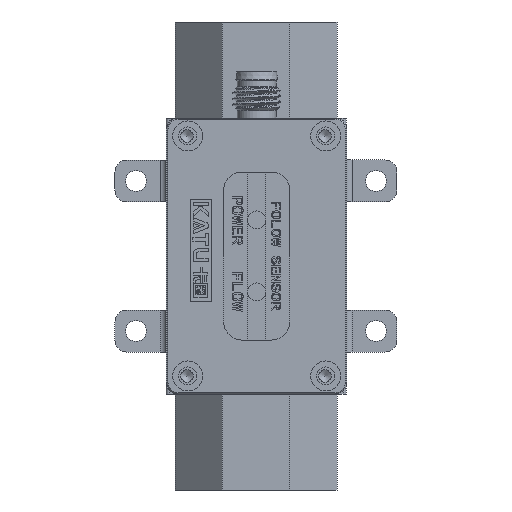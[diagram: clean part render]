
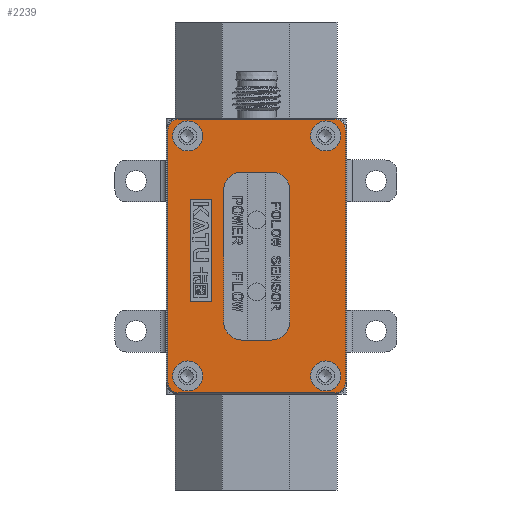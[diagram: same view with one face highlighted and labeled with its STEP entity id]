
A CAD part, front view. The second image highlights one B-rep face of the part: STEP entity #2239.
In plain terms, the highlighted planar face has unit normal (0, -1, 0).
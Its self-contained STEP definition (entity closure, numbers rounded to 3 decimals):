
#912=FACE_BOUND('',#5333,.T.);
#913=FACE_BOUND('',#5334,.T.);
#914=FACE_BOUND('',#5335,.T.);
#915=FACE_BOUND('',#5336,.T.);
#916=FACE_BOUND('',#5337,.T.);
#917=FACE_BOUND('',#5338,.T.);
#918=FACE_BOUND('',#5339,.T.);
#1442=CIRCLE('',#22005,3.);
#1443=CIRCLE('',#22006,3.);
#1444=CIRCLE('',#22007,3.);
#1445=CIRCLE('',#22008,3.);
#1446=CIRCLE('',#22009,1.8);
#1447=CIRCLE('',#22010,1.8);
#1448=CIRCLE('',#22011,1.8);
#1449=CIRCLE('',#22012,1.8);
#1450=CIRCLE('',#22013,2.5);
#1451=CIRCLE('',#22014,2.5);
#1452=CIRCLE('',#22015,2.5);
#1453=CIRCLE('',#22016,2.5);
#2239=ADVANCED_FACE('',(#912,#913,#914,#915,#916,#917,#918),#3154,.F.);
#3154=PLANE('',#22017);
#5333=EDGE_LOOP('',(#13179,#13180,#13181,#13182,#13183,#13184,#13185,#13186));
#5334=EDGE_LOOP('',(#13187,#13188,#13189,#13190,#13191,#13192,#13193,#13194));
#5335=EDGE_LOOP('',(#13195));
#5336=EDGE_LOOP('',(#13196));
#5337=EDGE_LOOP('',(#13197));
#5338=EDGE_LOOP('',(#13198));
#5339=EDGE_LOOP('',(#13199,#13200,#13201,#13202));
#7116=LINE('',#38990,#8926);
#7117=LINE('',#38995,#8927);
#7118=LINE('',#38999,#8928);
#7119=LINE('',#39003,#8929);
#7120=LINE('',#39006,#8930);
#7121=LINE('',#39011,#8931);
#7122=LINE('',#39015,#8932);
#7123=LINE('',#39019,#8933);
#7124=LINE('',#39030,#8934);
#7125=LINE('',#39033,#8935);
#7126=LINE('',#39035,#8936);
#7127=LINE('',#39037,#8937);
#8926=VECTOR('',#25794,1.);
#8927=VECTOR('',#25797,1.);
#8928=VECTOR('',#25800,1.);
#8929=VECTOR('',#25803,1.);
#8930=VECTOR('',#25806,1.);
#8931=VECTOR('',#25809,1.);
#8932=VECTOR('',#25812,1.);
#8933=VECTOR('',#25815,1.);
#8934=VECTOR('',#25826,1.);
#8935=VECTOR('',#25827,1.);
#8936=VECTOR('',#25828,1.);
#8937=VECTOR('',#25829,1.);
#13179=ORIENTED_EDGE('',*,*,#19266,.F.);
#13180=ORIENTED_EDGE('',*,*,#19267,.F.);
#13181=ORIENTED_EDGE('',*,*,#19268,.F.);
#13182=ORIENTED_EDGE('',*,*,#19269,.F.);
#13183=ORIENTED_EDGE('',*,*,#19270,.F.);
#13184=ORIENTED_EDGE('',*,*,#19271,.F.);
#13185=ORIENTED_EDGE('',*,*,#19272,.F.);
#13186=ORIENTED_EDGE('',*,*,#19273,.F.);
#13187=ORIENTED_EDGE('',*,*,#19274,.T.);
#13188=ORIENTED_EDGE('',*,*,#19275,.T.);
#13189=ORIENTED_EDGE('',*,*,#19276,.T.);
#13190=ORIENTED_EDGE('',*,*,#19277,.T.);
#13191=ORIENTED_EDGE('',*,*,#19278,.T.);
#13192=ORIENTED_EDGE('',*,*,#19279,.T.);
#13193=ORIENTED_EDGE('',*,*,#19280,.T.);
#13194=ORIENTED_EDGE('',*,*,#19281,.T.);
#13195=ORIENTED_EDGE('',*,*,#19282,.T.);
#13196=ORIENTED_EDGE('',*,*,#19283,.T.);
#13197=ORIENTED_EDGE('',*,*,#19284,.T.);
#13198=ORIENTED_EDGE('',*,*,#19285,.T.);
#13199=ORIENTED_EDGE('',*,*,#19286,.F.);
#13200=ORIENTED_EDGE('',*,*,#19287,.F.);
#13201=ORIENTED_EDGE('',*,*,#19288,.F.);
#13202=ORIENTED_EDGE('',*,*,#19289,.F.);
#16754=VERTEX_POINT('',#38991);
#16755=VERTEX_POINT('',#38992);
#16756=VERTEX_POINT('',#38994);
#16757=VERTEX_POINT('',#38996);
#16758=VERTEX_POINT('',#38998);
#16759=VERTEX_POINT('',#39000);
#16760=VERTEX_POINT('',#39002);
#16761=VERTEX_POINT('',#39004);
#16762=VERTEX_POINT('',#39007);
#16763=VERTEX_POINT('',#39008);
#16764=VERTEX_POINT('',#39010);
#16765=VERTEX_POINT('',#39012);
#16766=VERTEX_POINT('',#39014);
#16767=VERTEX_POINT('',#39016);
#16768=VERTEX_POINT('',#39018);
#16769=VERTEX_POINT('',#39020);
#16770=VERTEX_POINT('',#39023);
#16771=VERTEX_POINT('',#39025);
#16772=VERTEX_POINT('',#39027);
#16773=VERTEX_POINT('',#39029);
#16774=VERTEX_POINT('',#39031);
#16775=VERTEX_POINT('',#39032);
#16776=VERTEX_POINT('',#39034);
#16777=VERTEX_POINT('',#39036);
#19266=EDGE_CURVE('',#16754,#16755,#7116,.T.);
#19267=EDGE_CURVE('',#16756,#16754,#1442,.T.);
#19268=EDGE_CURVE('',#16757,#16756,#7117,.T.);
#19269=EDGE_CURVE('',#16758,#16757,#1443,.T.);
#19270=EDGE_CURVE('',#16759,#16758,#7118,.T.);
#19271=EDGE_CURVE('',#16760,#16759,#1444,.T.);
#19272=EDGE_CURVE('',#16761,#16760,#7119,.T.);
#19273=EDGE_CURVE('',#16755,#16761,#1445,.T.);
#19274=EDGE_CURVE('',#16762,#16763,#7120,.T.);
#19275=EDGE_CURVE('',#16763,#16764,#1446,.T.);
#19276=EDGE_CURVE('',#16764,#16765,#7121,.T.);
#19277=EDGE_CURVE('',#16765,#16766,#1447,.T.);
#19278=EDGE_CURVE('',#16766,#16767,#7122,.T.);
#19279=EDGE_CURVE('',#16767,#16768,#1448,.T.);
#19280=EDGE_CURVE('',#16768,#16769,#7123,.T.);
#19281=EDGE_CURVE('',#16769,#16762,#1449,.T.);
#19282=EDGE_CURVE('',#16770,#16770,#1450,.T.);
#19283=EDGE_CURVE('',#16771,#16771,#1451,.T.);
#19284=EDGE_CURVE('',#16772,#16772,#1452,.T.);
#19285=EDGE_CURVE('',#16773,#16773,#1453,.T.);
#19286=EDGE_CURVE('',#16774,#16775,#7124,.T.);
#19287=EDGE_CURVE('',#16776,#16774,#7125,.T.);
#19288=EDGE_CURVE('',#16777,#16776,#7126,.T.);
#19289=EDGE_CURVE('',#16775,#16777,#7127,.T.);
#22005=AXIS2_PLACEMENT_3D('',#38993,#25795,#25796);
#22006=AXIS2_PLACEMENT_3D('',#38997,#25798,#25799);
#22007=AXIS2_PLACEMENT_3D('',#39001,#25801,#25802);
#22008=AXIS2_PLACEMENT_3D('',#39005,#25804,#25805);
#22009=AXIS2_PLACEMENT_3D('',#39009,#25807,#25808);
#22010=AXIS2_PLACEMENT_3D('',#39013,#25810,#25811);
#22011=AXIS2_PLACEMENT_3D('',#39017,#25813,#25814);
#22012=AXIS2_PLACEMENT_3D('',#39021,#25816,#25817);
#22013=AXIS2_PLACEMENT_3D('',#39022,#25818,#25819);
#22014=AXIS2_PLACEMENT_3D('',#39024,#25820,#25821);
#22015=AXIS2_PLACEMENT_3D('',#39026,#25822,#25823);
#22016=AXIS2_PLACEMENT_3D('',#39028,#25824,#25825);
#22017=AXIS2_PLACEMENT_3D('',#39038,#25830,#25831);
#25794=DIRECTION('',(0.,0.,-1.));
#25795=DIRECTION('',(0.,-1.,0.));
#25796=DIRECTION('',(0.,0.,1.));
#25797=DIRECTION('',(-1.,0.,0.));
#25798=DIRECTION('',(0.,-1.,0.));
#25799=DIRECTION('',(0.,0.,1.));
#25800=DIRECTION('',(0.,0.,1.));
#25801=DIRECTION('',(0.,-1.,0.));
#25802=DIRECTION('',(0.,0.,1.));
#25803=DIRECTION('',(1.,0.,0.));
#25804=DIRECTION('',(0.,-1.,0.));
#25805=DIRECTION('',(0.,0.,1.));
#25806=DIRECTION('',(0.,0.,-1.));
#25807=DIRECTION('',(0.,-1.,0.));
#25808=DIRECTION('',(0.,0.,1.));
#25809=DIRECTION('',(1.,0.,0.));
#25810=DIRECTION('',(0.,-1.,0.));
#25811=DIRECTION('',(0.,0.,1.));
#25812=DIRECTION('',(0.,0.,1.));
#25813=DIRECTION('',(0.,-1.,0.));
#25814=DIRECTION('',(0.,0.,1.));
#25815=DIRECTION('',(-1.,0.,0.));
#25816=DIRECTION('',(0.,-1.,0.));
#25817=DIRECTION('',(0.,0.,1.));
#25818=DIRECTION('',(0.,1.,0.));
#25819=DIRECTION('',(0.,0.,1.));
#25820=DIRECTION('',(0.,1.,0.));
#25821=DIRECTION('',(0.,0.,1.));
#25822=DIRECTION('',(0.,1.,0.));
#25823=DIRECTION('',(0.,0.,1.));
#25824=DIRECTION('',(0.,1.,0.));
#25825=DIRECTION('',(0.,0.,1.));
#25826=DIRECTION('',(0.,0.,-1.));
#25827=DIRECTION('',(-1.,0.,0.));
#25828=DIRECTION('',(0.,0.,1.));
#25829=DIRECTION('',(1.,0.,0.));
#25830=DIRECTION('',(0.,1.,0.));
#25831=DIRECTION('',(0.,0.,1.));
#38990=CARTESIAN_POINT('',(-10.378,-29.,-5.));
#38991=CARTESIAN_POINT('',(-10.378,-29.,-5.));
#38992=CARTESIAN_POINT('',(-10.378,-29.,-27.));
#38993=CARTESIAN_POINT('',(-7.378,-29.,-5.));
#38994=CARTESIAN_POINT('',(-7.378,-29.,-2.));
#38995=CARTESIAN_POINT('',(-3.878,-29.,-2.));
#38996=CARTESIAN_POINT('',(-2.378,-29.,-2.));
#38997=CARTESIAN_POINT('',(-2.378,-29.,-5.));
#38998=CARTESIAN_POINT('',(0.622,-29.,-5.));
#38999=CARTESIAN_POINT('',(0.622,-29.,-27.));
#39000=CARTESIAN_POINT('',(0.622,-29.,-27.));
#39001=CARTESIAN_POINT('',(-2.378,-29.,-27.));
#39002=CARTESIAN_POINT('',(-2.378,-29.,-30.));
#39003=CARTESIAN_POINT('',(-5.878,-29.,-30.));
#39004=CARTESIAN_POINT('',(-7.378,-29.,-30.));
#39005=CARTESIAN_POINT('',(-7.378,-29.,-27.));
#39006=CARTESIAN_POINT('',(-19.678,-29.,-37.));
#39007=CARTESIAN_POINT('',(-19.678,-29.,5.));
#39008=CARTESIAN_POINT('',(-19.678,-29.,-37.));
#39009=CARTESIAN_POINT('',(-17.878,-29.,-37.));
#39010=CARTESIAN_POINT('',(-17.878,-29.,-38.8));
#39011=CARTESIAN_POINT('',(8.122,-29.,-38.8));
#39012=CARTESIAN_POINT('',(8.122,-29.,-38.8));
#39013=CARTESIAN_POINT('',(8.122,-29.,-37.));
#39014=CARTESIAN_POINT('',(9.922,-29.,-37.));
#39015=CARTESIAN_POINT('',(9.922,-29.,5.));
#39016=CARTESIAN_POINT('',(9.922,-29.,5.));
#39017=CARTESIAN_POINT('',(8.122,-29.,5.));
#39018=CARTESIAN_POINT('',(8.122,-29.,6.8));
#39019=CARTESIAN_POINT('',(-17.878,-29.,6.8));
#39020=CARTESIAN_POINT('',(-17.878,-29.,6.8));
#39021=CARTESIAN_POINT('',(-17.878,-29.,5.));
#39022=CARTESIAN_POINT('',(-16.378,-29.,4.));
#39023=CARTESIAN_POINT('',(-16.378,-29.,6.5));
#39024=CARTESIAN_POINT('',(-16.378,-29.,-36.));
#39025=CARTESIAN_POINT('',(-16.378,-29.,-33.5));
#39026=CARTESIAN_POINT('',(6.622,-29.,-36.));
#39027=CARTESIAN_POINT('',(6.622,-29.,-33.5));
#39028=CARTESIAN_POINT('',(6.622,-29.,4.));
#39029=CARTESIAN_POINT('',(6.622,-29.,6.5));
#39030=CARTESIAN_POINT('',(-15.918,-29.,-6.543));
#39031=CARTESIAN_POINT('',(-15.918,-29.,-6.543));
#39032=CARTESIAN_POINT('',(-15.918,-29.,-23.543));
#39033=CARTESIAN_POINT('',(-12.418,-29.,-6.543));
#39034=CARTESIAN_POINT('',(-12.418,-29.,-6.543));
#39035=CARTESIAN_POINT('',(-12.418,-29.,-23.543));
#39036=CARTESIAN_POINT('',(-12.418,-29.,-23.543));
#39037=CARTESIAN_POINT('',(-15.918,-29.,-23.543));
#39038=CARTESIAN_POINT('',(-17.878,-29.,-37.));
